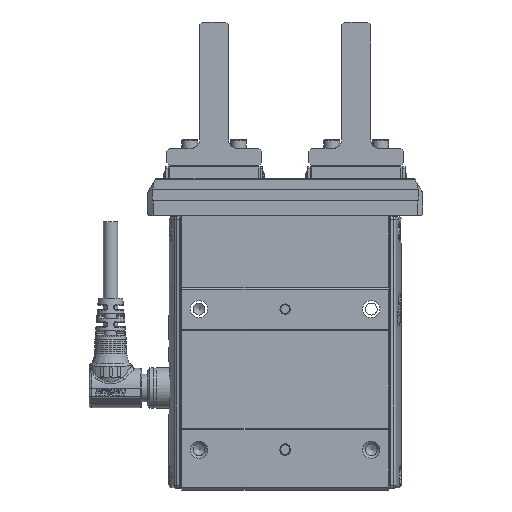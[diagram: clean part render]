
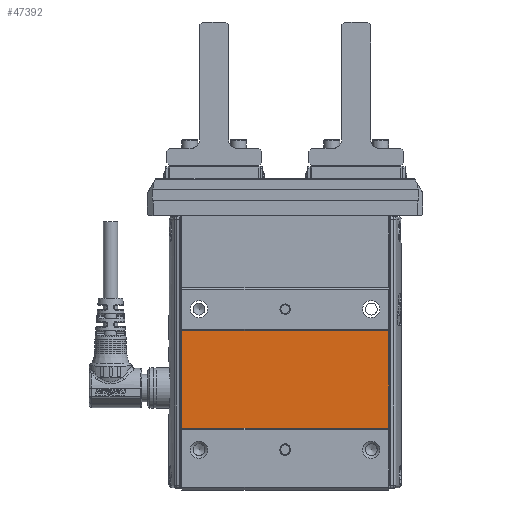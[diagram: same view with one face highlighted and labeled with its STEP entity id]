
A CAD part, front view. The second image highlights one B-rep face of the part: STEP entity #47392.
In plain terms, the highlighted planar face has unit normal (0, -1, 0).
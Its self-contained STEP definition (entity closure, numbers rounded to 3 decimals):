
#4731=PLANE('',#50612);
#6247=FACE_OUTER_BOUND('',#8889,.T.);
#8889=EDGE_LOOP('',(#34157,#34158,#34159,#34160));
#11852=LINE('',#71720,#15290);
#11853=LINE('',#71723,#15291);
#11854=LINE('',#71725,#15292);
#11855=LINE('',#71726,#15293);
#15290=VECTOR('',#56939,10.);
#15291=VECTOR('',#56942,10.);
#15292=VECTOR('',#56943,10.);
#15293=VECTOR('',#56944,10.);
#21561=VERTEX_POINT('',#71716);
#21562=VERTEX_POINT('',#71718);
#21563=VERTEX_POINT('',#71722);
#21564=VERTEX_POINT('',#71724);
#26444=EDGE_CURVE('',#21561,#21562,#11852,.T.);
#26445=EDGE_CURVE('',#21563,#21562,#11853,.T.);
#26446=EDGE_CURVE('',#21563,#21564,#11854,.T.);
#26447=EDGE_CURVE('',#21561,#21564,#11855,.T.);
#34157=ORIENTED_EDGE('',*,*,#26444,.T.);
#34158=ORIENTED_EDGE('',*,*,#26445,.F.);
#34159=ORIENTED_EDGE('',*,*,#26446,.T.);
#34160=ORIENTED_EDGE('',*,*,#26447,.F.);
#47392=ADVANCED_FACE('',(#6247),#4731,.T.);
#50612=AXIS2_PLACEMENT_3D('',#71721,#56940,#56941);
#56939=DIRECTION('',(-1.,0.,0.));
#56940=DIRECTION('center_axis',(0.,-1.,0.));
#56941=DIRECTION('ref_axis',(0.,0.,
-1.));
#56942=DIRECTION('',(0.,0.,1.));
#56943=DIRECTION('',(1.,0.,0.));
#56944=DIRECTION('',(0.,0.,-1.));
#71716=CARTESIAN_POINT('',(36.,-21.,-28.5));
#71718=CARTESIAN_POINT('',(-36.,-21.,-28.5));
#71720=CARTESIAN_POINT('',(0.,-21.,-28.5));
#71721=CARTESIAN_POINT('Origin',(0.,-21.,17.5));
#71722=CARTESIAN_POINT('',(-36.,-21.,-62.5));
#71723=CARTESIAN_POINT('',(-36.,-21.,17.5));
#71724=CARTESIAN_POINT('',(36.,-21.,-62.5));
#71725=CARTESIAN_POINT('',(0.,-21.,-62.5));
#71726=CARTESIAN_POINT('',(36.,-21.,17.5));
